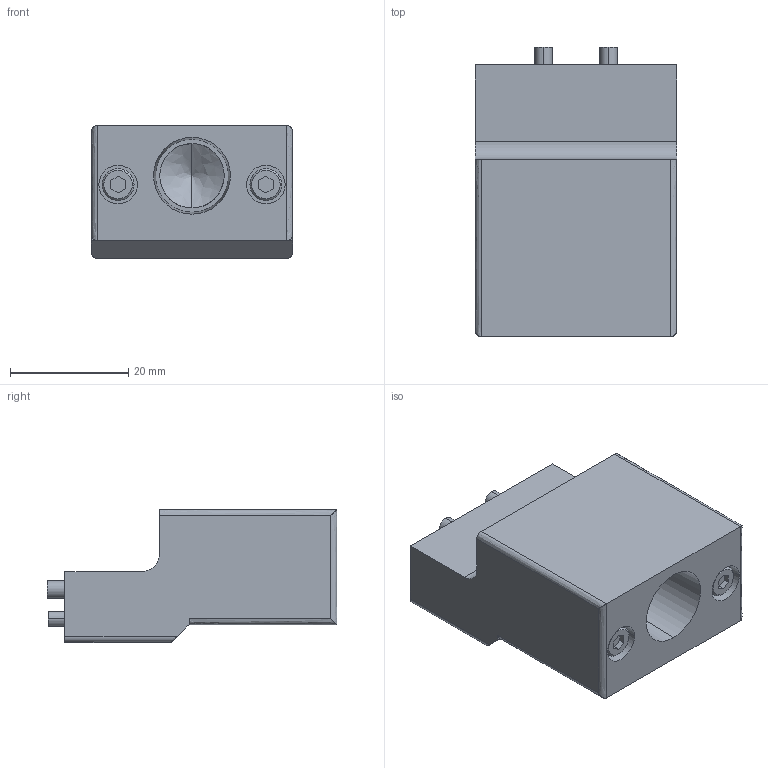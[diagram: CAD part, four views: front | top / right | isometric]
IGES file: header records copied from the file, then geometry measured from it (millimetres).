
Start section: 3D InterOp IGES (v. 2022 1.0.0), Spatial Corp. Copyright (c) 1999-2020.
Global section: file name: KHG-12RS-EP81_ver1.igs; native system: Spatial Corp.; preprocessor: 3D InterOp GENERIC/IGES 3.0; author: Noname; organization: Noname; date: 20260518.091953; units: millimetre
Bounding box: 34 x 49 x 22.5 mm (x, y, z)
Surface area: 9327.4 mm2 (no closed solid volume)
Topology: 0 solids, 0 shells, 146 faces, 626 edges, 624 vertices
Faces by surface type: revolution 77, extrusion 69
